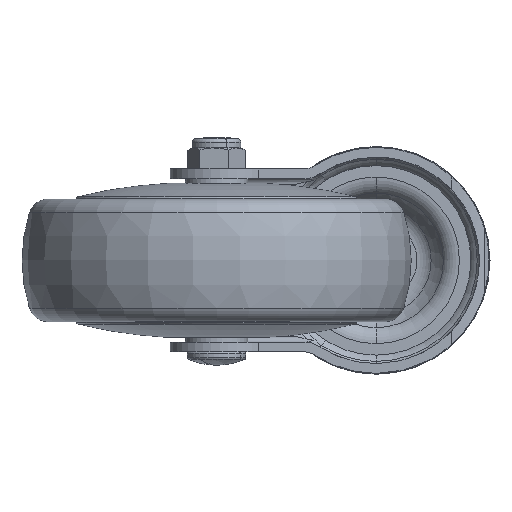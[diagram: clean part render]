
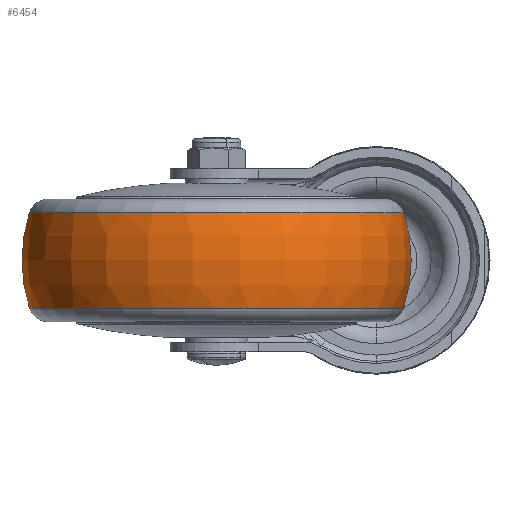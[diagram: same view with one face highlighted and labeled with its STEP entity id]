
A CAD part, front view. The second image highlights one B-rep face of the part: STEP entity #6454.
In plain terms, the highlighted toroidal (fillet/blend) face has major radius 9.765 mm and minor radius 40.235 mm.
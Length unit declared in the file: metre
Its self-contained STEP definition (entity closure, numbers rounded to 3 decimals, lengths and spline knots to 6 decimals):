
#27 = ORIENTED_EDGE ( 'NONE', *, *, #8033, .F. ) ;
#304 = TOROIDAL_SURFACE ( 'NONE', #8095, 0.009765, 0.040235 ) ;
#814 = CARTESIAN_POINT ( 'NONE',  ( -0.089082, -0.083426, -0.012275 ) ) ;
#1095 = CARTESIAN_POINT ( 'NONE',  ( 0.007082, -0.083426, -0.012275 ) ) ;
#1366 = DIRECTION ( 'NONE',  ( -1., 0., 0. ) ) ;
#1425 = CARTESIAN_POINT ( 'NONE',  ( -0.041, -0.083426, 0. ) ) ;
#1780 = CIRCLE ( 'NONE', #6510, 0.048082 ) ;
#2392 = CARTESIAN_POINT ( 'NONE',  ( 0.007082, -0.083426, 0.012275 ) ) ;
#2469 = DIRECTION ( 'NONE',  ( -1., 0., 0. ) ) ;
#3227 = CARTESIAN_POINT ( 'NONE',  ( -0.041, -0.083426, -0.012275 ) ) ;
#5142 = CARTESIAN_POINT ( 'NONE',  ( -0.041, -0.083426, 0.012275 ) ) ;
#6048 = DIRECTION ( 'NONE',  ( 0., 0., -1. ) ) ;
#6454 = ADVANCED_FACE ( 'NONE', ( #12709 ), #304, .T. ) ;
#6456 = AXIS2_PLACEMENT_3D ( 'NONE', #9144, #8166, #11082 ) ;
#6473 = EDGE_CURVE ( 'NONE', #8458, #12549, #10163, .T. ) ;
#6510 = AXIS2_PLACEMENT_3D ( 'NONE', #3227, #7195, #10217 ) ;
#6710 = EDGE_LOOP ( 'NONE', ( #7034, #9726, #12047, #27 ) ) ;
#7034 = ORIENTED_EDGE ( 'NONE', *, *, #12188, .F. ) ;
#7195 = DIRECTION ( 'NONE',  ( 0., 0., -1. ) ) ;
#7399 = CARTESIAN_POINT ( 'NONE',  ( -0.089082, -0.083426, 0.012275 ) ) ;
#7411 = CARTESIAN_POINT ( 'NONE',  ( -0.031235, -0.083426, 0. ) ) ;
#7612 = VERTEX_POINT ( 'NONE', #2392 ) ;
#8033 = EDGE_CURVE ( 'NONE', #11054, #12549, #1780, .T. ) ;
#8095 = AXIS2_PLACEMENT_3D ( 'NONE', #1425, #10961, #1366 ) ;
#8166 = DIRECTION ( 'NONE',  ( 0., -1., 0. ) ) ;
#8458 = VERTEX_POINT ( 'NONE', #7399 ) ;
#9144 = CARTESIAN_POINT ( 'NONE',  ( -0.050765, -0.083426, 0. ) ) ;
#9256 = AXIS2_PLACEMENT_3D ( 'NONE', #5142, #6048, #10025 ) ;
#9270 = AXIS2_PLACEMENT_3D ( 'NONE', #7411, #11157, #2469 ) ;
#9413 = EDGE_CURVE ( 'NONE', #7612, #8458, #9447, .T. ) ;
#9447 = CIRCLE ( 'NONE', #9256, 0.048082 ) ;
#9726 = ORIENTED_EDGE ( 'NONE', *, *, #9413, .T. ) ;
#10025 = DIRECTION ( 'NONE',  ( -1., 0., 0. ) ) ;
#10163 = CIRCLE ( 'NONE', #6456, 0.040235 ) ;
#10217 = DIRECTION ( 'NONE',  ( -1., 0., 0. ) ) ;
#10961 = DIRECTION ( 'NONE',  ( 0., 0., -1. ) ) ;
#11054 = VERTEX_POINT ( 'NONE', #1095 ) ;
#11082 = DIRECTION ( 'NONE',  ( 0., 0., -1. ) ) ;
#11141 = CIRCLE ( 'NONE', #9270, 0.040235 ) ;
#11157 = DIRECTION ( 'NONE',  ( 0., 1., 0. ) ) ;
#12047 = ORIENTED_EDGE ( 'NONE', *, *, #6473, .T. ) ;
#12188 = EDGE_CURVE ( 'NONE', #7612, #11054, #11141, .T. ) ;
#12549 = VERTEX_POINT ( 'NONE', #814 ) ;
#12709 = FACE_OUTER_BOUND ( 'NONE', #6710, .T. ) ;
